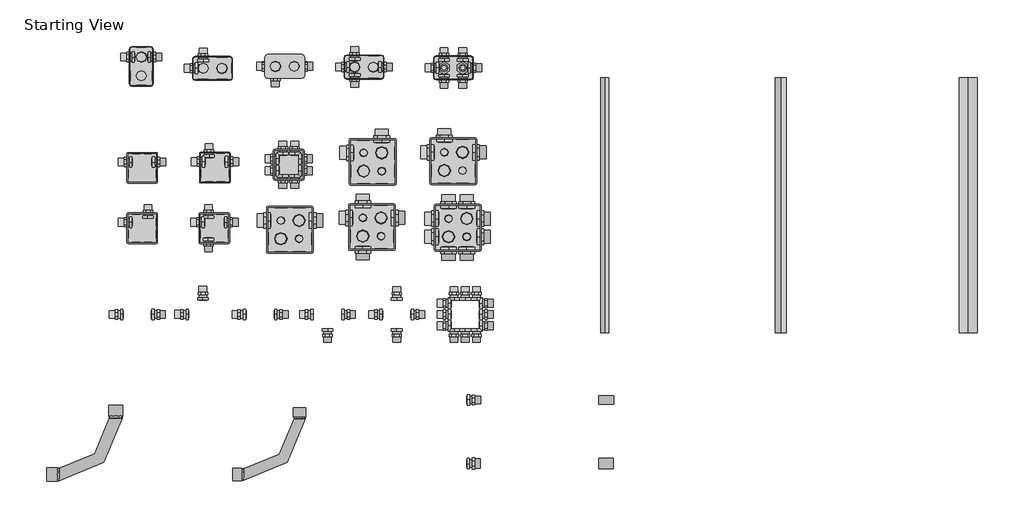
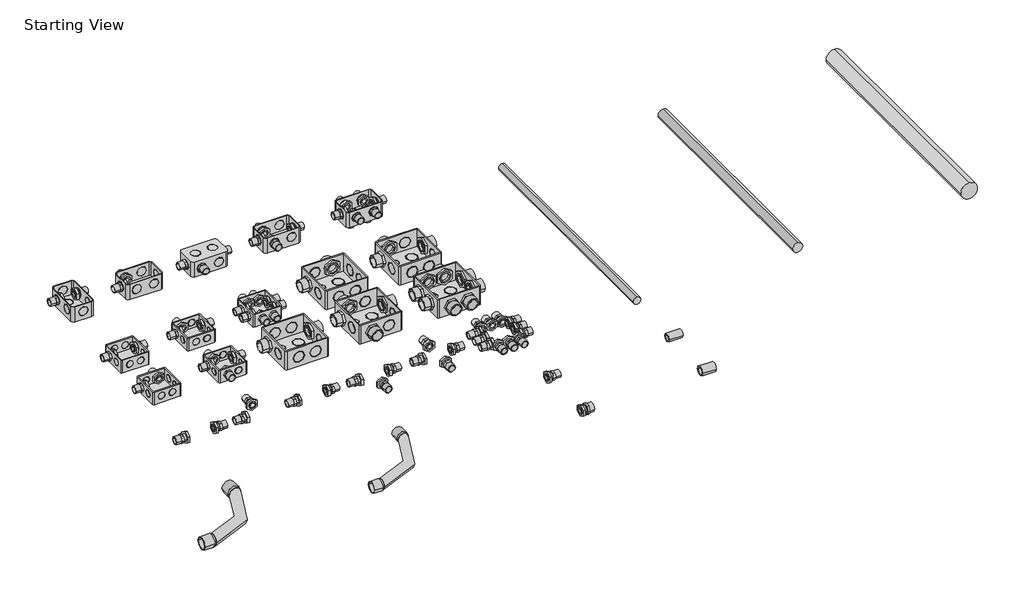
# One storey, incomplete: 103 cable carrier fittings, 3 cable carrier segments.
"""IFC4 building model written with IfcOpenShell, lengths in millimetres."""

from ifc_helpers import new_model, si_unit, point, frame, frame_2d, origin, place, context, project, spatial, circle_curve, trimmed, segment, composite_curve, outline, extrude, transform, mapped, element, save
from components import cable_carrier_fitting_7d2375e2, cable_carrier_fitting_02a53545, conector_ligero_3b958732, conector_313dfdba, conector_c9d302f4, ligero_00a50f13, ligero_7b7c8aed, var_9e1fd1a0, var_f0f9a7e7, var_0c476a5f

model = new_model("IFC4")

# Units and contexts
model_context = context("Model", 3, world=origin())
ifc_project = project(units=[si_unit("LENGTHUNIT", "METRE", prefix="MILLI")], contexts=[model_context])

# Site, building, storey
site = spatial("IfcSite", under=ifc_project)
building = spatial("IfcBuilding", under=site)
storey = spatial("IfcBuildingStorey", under=building, Name="Starting View", Elevation=0.0)

# Cable carrier fittings
placement = place(None, origin())
cable_carrier_fitting_shape = cable_carrier_fitting_7d2375e2(model_context)
element("IfcCableCarrierFitting", 1, ObjectType="AmancoWavin_Unionesdetubería_ConduitCople : Pesado", at=placement, inside=storey, context=model_context, shape_type="MappedRepresentation", body=[
    mapped(cable_carrier_fitting_shape, transform((2787.0313304, 2180.5617548, 0.0), x_axis=(1.0, 0.0, 0.0), y_axis=(0.0, 1.0, 0.0), z_axis=(0.0, 0.0, 1.0))),
])
cable_carrier_fitting_2_shape = cable_carrier_fitting_02a53545(model_context)
element("IfcCableCarrierFitting", 2, ObjectType="AmancoWavin_Unionesdetubería_ConduitCurva : Pesado", at=placement, inside=storey, context=model_context, shape_type="MappedRepresentation", body=[
    mapped(cable_carrier_fitting_2_shape, transform((1480.4376759, 2151.4002553, 0.0), x_axis=(1.0, 0.0, 0.0), y_axis=(0.0, 1.0, 0.0), z_axis=(0.0, 0.0, 1.0))),
])
conector_ligero_shape = conector_ligero_3b958732(model_context)
element("IfcCableCarrierFitting", 3, ObjectType="AmancoWavin_Unionesdetubería_ConduitZNousarconector : Conector Pesado", at=placement, inside=storey, context=model_context, shape_type="MappedRepresentation", body=[
    mapped(conector_ligero_shape, transform((2329.2844095, 2833.6046663, 0.0), x_axis=(-1.0, 0.0, 0.0), y_axis=(0.0, -1.0, 0.0), z_axis=(0.0, 0.0, 1.0))),
])
element("IfcCableCarrierFitting", 4, ObjectType="AmancoWavin_Unionesdetubería_ConduitZNousarconector : Conector Pesado", at=placement, inside=storey, context=model_context, shape_type="MappedRepresentation", body=[
    mapped(conector_ligero_shape, transform((2454.2844095, 2833.6046663, 0.0), x_axis=(1.0, 0.0, 0.0), y_axis=(0.0, 1.0, 0.0), z_axis=(0.0, 0.0, 1.0))),
])
element("IfcCableCarrierFitting", 5, ObjectType="AmancoWavin_Unionesdetubería_ConduitZNousarconector : Conector Pesado", at=placement, inside=storey, context=model_context, shape_type="MappedRepresentation", body=[
    mapped(conector_ligero_shape, transform((2329.2844095, 2785.1046663, 0.0), x_axis=(-1.0, 0.0, 0.0), y_axis=(0.0, -1.0, 0.0), z_axis=(0.0, 0.0, 1.0))),
])
element("IfcCableCarrierFitting", 6, ObjectType="AmancoWavin_Unionesdetubería_ConduitZNousarconector : Conector Pesado", at=placement, inside=storey, context=model_context, shape_type="MappedRepresentation", body=[
    mapped(conector_ligero_shape, transform((2454.2844095, 2785.1046663, 0.0), x_axis=(1.0, 0.0, 0.0), y_axis=(0.0, 1.0, 0.0), z_axis=(0.0, 0.0, 1.0))),
])
element("IfcCableCarrierFitting", 7, ObjectType="AmancoWavin_Unionesdetubería_ConduitZNousarconector : Conector Pesado", at=placement, inside=storey, context=model_context, shape_type="MappedRepresentation", body=[
    mapped(conector_ligero_shape, transform((2367.5344095, 2871.8546663, 0.0), x_axis=(0.0, 1.0, 0.0), y_axis=(-1.0, 0.0, 0.0), z_axis=(0.0, 0.0, 1.0))),
])
element("IfcCableCarrierFitting", 8, ObjectType="AmancoWavin_Unionesdetubería_ConduitZNousarconector : Conector Pesado", at=placement, inside=storey, context=model_context, shape_type="MappedRepresentation", body=[
    mapped(conector_ligero_shape, transform((2367.5344095, 2746.8546663, 0.0), x_axis=(0.0, -1.0, 0.0), y_axis=(1.0, 0.0, 0.0), z_axis=(0.0, 0.0, 1.0))),
])
element("IfcCableCarrierFitting", 9, ObjectType="AmancoWavin_Unionesdetubería_ConduitZNousarconector : Conector Pesado", at=placement, inside=storey, context=model_context, shape_type="MappedRepresentation", body=[
    mapped(conector_ligero_shape, transform((2416.0344095, 2871.8546663, 0.0), x_axis=(0.0, 1.0, 0.0), y_axis=(-1.0, 0.0, 0.0), z_axis=(0.0, 0.0, 1.0))),
])
element("IfcCableCarrierFitting", 10, ObjectType="AmancoWavin_Unionesdetubería_ConduitZNousarconector : Conector Pesado", at=placement, inside=storey, context=model_context, shape_type="MappedRepresentation", body=[
    mapped(conector_ligero_shape, transform((2416.0344095, 2746.8546663, 0.0), x_axis=(0.0, -1.0, 0.0), y_axis=(1.0, 0.0, 0.0), z_axis=(0.0, 0.0, 1.0))),
])
conector_shape = conector_313dfdba(model_context)
element("IfcCableCarrierFitting", 11, ObjectType="AmancoWavin_Unionesdetubería_ConduitZNousarconector : Conector Pesado", at=placement, inside=storey, context=model_context, shape_type="MappedRepresentation", body=[
    mapped(conector_shape, transform((1900.612632, 2992.7512274, 0.0), x_axis=(-1.0, 0.0, 0.0), y_axis=(0.0, -1.0, 0.0), z_axis=(0.0, 0.0, 1.0))),
])
element("IfcCableCarrierFitting", 12, ObjectType="AmancoWavin_Unionesdetubería_ConduitZNousarconector : Conector Pesado", at=placement, inside=storey, context=model_context, shape_type="MappedRepresentation", body=[
    mapped(conector_shape, transform((1982.612632, 2992.7512274, 0.0), x_axis=(1.0, 0.0, 0.0), y_axis=(0.0, 1.0, 0.0), z_axis=(0.0, 0.0, 1.0))),
])
element("IfcCableCarrierFitting", 13, ObjectType="AmancoWavin_Unionesdetubería_ConduitZNousarconector : Conector Pesado", at=placement, inside=storey, context=model_context, shape_type="MappedRepresentation", body=[
    mapped(conector_shape, transform((1900.612632, 2961.2512274, 0.0), x_axis=(-1.0, 0.0, 0.0), y_axis=(0.0, -1.0, 0.0), z_axis=(0.0, 0.0, 1.0))),
])
element("IfcCableCarrierFitting", 14, ObjectType="AmancoWavin_Unionesdetubería_ConduitZNousarconector : Conector Pesado", at=placement, inside=storey, context=model_context, shape_type="MappedRepresentation", body=[
    mapped(conector_shape, transform((1982.612632, 2961.2512274, 0.0), x_axis=(1.0, 0.0, 0.0), y_axis=(0.0, 1.0, 0.0), z_axis=(0.0, 0.0, 1.0))),
])
element("IfcCableCarrierFitting", 15, ObjectType="AmancoWavin_Unionesdetubería_ConduitZNousarconector : Conector Pesado", at=placement, inside=storey, context=model_context, shape_type="MappedRepresentation", body=[
    mapped(conector_shape, transform((1925.862632, 3018.0012274, 0.0), x_axis=(0.0, 1.0, 0.0), y_axis=(-1.0, 0.0, 0.0), z_axis=(0.0, 0.0, 1.0))),
])
element("IfcCableCarrierFitting", 16, ObjectType="AmancoWavin_Unionesdetubería_ConduitZNousarconector : Conector Pesado", at=placement, inside=storey, context=model_context, shape_type="MappedRepresentation", body=[
    mapped(conector_shape, transform((1925.862632, 2936.0012274, 0.0), x_axis=(0.0, -1.0, 0.0), y_axis=(1.0, 0.0, 0.0), z_axis=(0.0, 0.0, 1.0))),
])
element("IfcCableCarrierFitting", 17, ObjectType="AmancoWavin_Unionesdetubería_ConduitZNousarconector : Conector Pesado", at=placement, inside=storey, context=model_context, shape_type="MappedRepresentation", body=[
    mapped(conector_shape, transform((1957.362632, 3018.0012274, 0.0), x_axis=(0.0, 1.0, 0.0), y_axis=(-1.0, 0.0, 0.0), z_axis=(0.0, 0.0, 1.0))),
])
element("IfcCableCarrierFitting", 18, ObjectType="AmancoWavin_Unionesdetubería_ConduitZNousarconector : Conector Pesado", at=placement, inside=storey, context=model_context, shape_type="MappedRepresentation", body=[
    mapped(conector_shape, transform((1957.362632, 2936.0012274, 0.0), x_axis=(0.0, -1.0, 0.0), y_axis=(1.0, 0.0, 0.0), z_axis=(0.0, 0.0, 1.0))),
])
element("IfcCableCarrierFitting", 19, ObjectType="AmancoWavin_Unionesdetubería_ConduitConector : Conector", at=placement, inside=storey, context=model_context, shape_type="MappedRepresentation", body=[
    mapped(conector_shape, transform((2431.3394166, 2350.0215127, 0.0), x_axis=(1.0, 0.0, 0.0), y_axis=(0.0, 1.0, 0.0), z_axis=(0.0, 0.0, 1.0))),
])
conector_2_shape = conector_c9d302f4(model_context)
element("IfcCableCarrierFitting", 20, ObjectType="AmancoWavin_Unionesdetubería_ConduitConector : Conector", at=placement, inside=storey, context=model_context, shape_type="MappedRepresentation", body=[
    mapped(conector_2_shape, transform((2431.1831654, 2180.5617548, 0.0), x_axis=(1.0, 0.0, 0.0), y_axis=(0.0, 1.0, 0.0), z_axis=(0.0, 0.0, 1.0))),
])
element("IfcCableCarrierFitting", 21, ObjectType="AmancoWavin_Unionesdetubería_ConduitZNousarconector : Conector Ligero", at=placement, inside=storey, context=model_context, shape_type="MappedRepresentation", body=[
    mapped(conector_shape, transform((1509.5870102, 2984.3288876, 0.0), x_axis=(-1.0, 0.0, 0.0), y_axis=(0.0, -1.0, 0.0), z_axis=(0.0, 0.0, 1.0))),
])
element("IfcCableCarrierFitting", 22, ObjectType="AmancoWavin_Unionesdetubería_ConduitZNousarconector : Conector Ligero", at=placement, inside=storey, context=model_context, shape_type="MappedRepresentation", body=[
    mapped(conector_shape, transform((1591.5870102, 2984.3288876, 0.0), x_axis=(1.0, 0.0, 0.0), y_axis=(0.0, 1.0, 0.0), z_axis=(0.0, 0.0, 1.0))),
])
element("IfcCableCarrierFitting", 23, ObjectType="AmancoWavin_Unionesdetubería_ConduitZNousarconector : Conector Ligero", at=placement, inside=storey, context=model_context, shape_type="MappedRepresentation", body=[
    mapped(conector_shape, transform((1516.3799655, 3264.1436936, 0.0), x_axis=(-1.0, 0.0, 0.0), y_axis=(0.0, -1.0, 0.0), z_axis=(0.0, 0.0, 1.0))),
])
element("IfcCableCarrierFitting", 24, ObjectType="AmancoWavin_Unionesdetubería_ConduitZNousarconector : Conector Ligero", at=placement, inside=storey, context=model_context, shape_type="MappedRepresentation", body=[
    mapped(conector_shape, transform((1580.3799655, 3264.1436936, 0.0), x_axis=(1.0, 0.0, 0.0), y_axis=(0.0, 1.0, 0.0), z_axis=(0.0, 0.0, 1.0))),
])
element("IfcCableCarrierFitting", 25, ObjectType="AmancoWavin_Unionesdetubería_ConduitZNousarconector : Conector Ligero", at=placement, inside=storey, context=model_context, shape_type="MappedRepresentation", body=[
    mapped(conector_shape, transform((1877.8503408, 3239.1436936, 0.0), x_axis=(-1.0, 0.0, 0.0), y_axis=(0.0, 1.0, 0.0), z_axis=(0.0, 0.0, -1.0))),
])
element("IfcCableCarrierFitting", 26, ObjectType="AmancoWavin_Unionesdetubería_ConduitZNousarconector : Conector Ligero", at=placement, inside=storey, context=model_context, shape_type="MappedRepresentation", body=[
    mapped(conector_shape, transform((1983.8503408, 3239.1436936, 0.0), x_axis=(1.0, 0.0, 0.0), y_axis=(0.0, -1.0, 0.0), z_axis=(0.0, 0.0, -1.0))),
])
element("IfcCableCarrierFitting", 27, ObjectType="AmancoWavin_Unionesdetubería_ConduitZNousarconector : Conector Ligero", at=placement, inside=storey, context=model_context, shape_type="MappedRepresentation", body=[
    mapped(conector_shape, transform((1905.8503408, 3207.1436936, 0.0), x_axis=(0.0, -1.0, 0.0), y_axis=(-1.0, 0.0, 0.0), z_axis=(0.0, 0.0, -1.0))),
])
element("IfcCableCarrierFitting", 28, ObjectType="AmancoWavin_Unionesdetubería_ConduitZNousarconector : Conector Ligero", at=placement, inside=storey, context=model_context, shape_type="MappedRepresentation", body=[
    mapped(conector_shape, transform((2089.1323116, 3237.5169448, 0.0), x_axis=(-1.0, 0.0, 0.0), y_axis=(0.0, -1.0, 0.0), z_axis=(0.0, 0.0, 1.0))),
])
element("IfcCableCarrierFitting", 29, ObjectType="AmancoWavin_Unionesdetubería_ConduitZNousarconector : Conector Ligero", at=placement, inside=storey, context=model_context, shape_type="MappedRepresentation", body=[
    mapped(conector_shape, transform((2195.1323116, 3237.5169448, 0.0), x_axis=(1.0, 0.0, 0.0), y_axis=(0.0, 1.0, 0.0), z_axis=(0.0, 0.0, 1.0))),
])
element("IfcCableCarrierFitting", 30, ObjectType="AmancoWavin_Unionesdetubería_ConduitZNousarconector : Conector Ligero", at=placement, inside=storey, context=model_context, shape_type="MappedRepresentation", body=[
    mapped(conector_shape, transform((2117.1323116, 3269.5169448, 0.0), x_axis=(0.0, 1.0, 0.0), y_axis=(-1.0, 0.0, 0.0), z_axis=(0.0, 0.0, 1.0))),
])
element("IfcCableCarrierFitting", 31, ObjectType="AmancoWavin_Unionesdetubería_ConduitZNousarconector : Conector Ligero", at=placement, inside=storey, context=model_context, shape_type="MappedRepresentation", body=[
    mapped(conector_shape, transform((2117.1323116, 3205.5169448, 0.0), x_axis=(0.0, -1.0, 0.0), y_axis=(1.0, 0.0, 0.0), z_axis=(0.0, 0.0, 1.0))),
])
element("IfcCableCarrierFitting", 32, ObjectType="AmancoWavin_Unionesdetubería_ConduitZNousarconector : Conector Ligero", at=placement, inside=storey, context=model_context, shape_type="MappedRepresentation", body=[
    mapped(conector_shape, transform((2097.4395789, 2577.9742706, 0.0), x_axis=(1.0, 0.0, 0.0), y_axis=(0.0, 1.0, 0.0), z_axis=(0.0, 0.0, 1.0))),
])
element("IfcCableCarrierFitting", 33, ObjectType="AmancoWavin_Unionesdetubería_ConduitZNousarconector : Conector Ligero", at=placement, inside=storey, context=model_context, shape_type="MappedRepresentation", body=[
    mapped(conector_shape, transform((1992.4395789, 2577.9742706, 0.0), x_axis=(-1.0, 0.0, 0.0), y_axis=(0.0, -1.0, 0.0), z_axis=(0.0, 0.0, 1.0))),
])
element("IfcCableCarrierFitting", 34, ObjectType="AmancoWavin_Unionesdetubería_ConduitZNousarconector : Conector Ligero", at=placement, inside=storey, context=model_context, shape_type="MappedRepresentation", body=[
    mapped(conector_shape, transform((2044.9395789, 2525.4742706, 0.0), x_axis=(0.0, -1.0, 0.0), y_axis=(1.0, 0.0, 0.0), z_axis=(0.0, 0.0, 1.0))),
])
element("IfcCableCarrierFitting", 35, ObjectType="AmancoWavin_Unionesdetubería_ConduitZNousarconector : Conector Ligero", at=placement, inside=storey, context=model_context, shape_type="MappedRepresentation", body=[
    mapped(conector_shape, transform((2359.5776405, 2547.9742706, 0.0), x_axis=(-1.0, 0.0, 0.0), y_axis=(0.0, -1.0, 0.0), z_axis=(0.0, 0.0, 1.0))),
])
element("IfcCableCarrierFitting", 36, ObjectType="AmancoWavin_Unionesdetubería_ConduitZNousarconector : Conector Ligero", at=placement, inside=storey, context=model_context, shape_type="MappedRepresentation", body=[
    mapped(conector_shape, transform((2464.5776405, 2577.9742706, 0.0), x_axis=(1.0, 0.0, 0.0), y_axis=(0.0, 1.0, 0.0), z_axis=(0.0, 0.0, 1.0))),
])
element("IfcCableCarrierFitting", 37, ObjectType="AmancoWavin_Unionesdetubería_ConduitZNousarconector : Conector Ligero", at=placement, inside=storey, context=model_context, shape_type="MappedRepresentation", body=[
    mapped(conector_shape, transform((2359.5776405, 2577.9742706, 0.0), x_axis=(-1.0, 0.0, 0.0), y_axis=(0.0, -1.0, 0.0), z_axis=(0.0, 0.0, 1.0))),
])
element("IfcCableCarrierFitting", 38, ObjectType="AmancoWavin_Unionesdetubería_ConduitZNousarconector : Conector Ligero", at=placement, inside=storey, context=model_context, shape_type="MappedRepresentation", body=[
    mapped(conector_shape, transform((2464.5776405, 2607.9742706, 0.0), x_axis=(1.0, 0.0, 0.0), y_axis=(0.0, 1.0, 0.0), z_axis=(0.0, 0.0, 1.0))),
])
element("IfcCableCarrierFitting", 39, ObjectType="AmancoWavin_Unionesdetubería_ConduitZNousarconector : Conector Ligero", at=placement, inside=storey, context=model_context, shape_type="MappedRepresentation", body=[
    mapped(conector_shape, transform((2359.5776405, 2607.9742706, 0.0), x_axis=(-1.0, 0.0, 0.0), y_axis=(0.0, -1.0, 0.0), z_axis=(0.0, 0.0, 1.0))),
])
element("IfcCableCarrierFitting", 40, ObjectType="AmancoWavin_Unionesdetubería_ConduitZNousarconector : Conector Ligero", at=placement, inside=storey, context=model_context, shape_type="MappedRepresentation", body=[
    mapped(conector_shape, transform((2442.0776405, 2525.4742706, 0.0), x_axis=(0.0, -1.0, 0.0), y_axis=(1.0, 0.0, 0.0), z_axis=(0.0, 0.0, 1.0))),
])
element("IfcCableCarrierFitting", 41, ObjectType="AmancoWavin_Unionesdetubería_ConduitZNousarconector : Conector Ligero", at=placement, inside=storey, context=model_context, shape_type="MappedRepresentation", body=[
    mapped(conector_shape, transform((2442.0776405, 2630.4742706, 0.0), x_axis=(0.0, 1.0, 0.0), y_axis=(-1.0, 0.0, 0.0), z_axis=(0.0, 0.0, 1.0))),
])
element("IfcCableCarrierFitting", 42, ObjectType="AmancoWavin_Unionesdetubería_ConduitZNousarconector : Conector Ligero", at=placement, inside=storey, context=model_context, shape_type="MappedRepresentation", body=[
    mapped(conector_shape, transform((2412.0776405, 2525.4742706, 0.0), x_axis=(0.0, -1.0, 0.0), y_axis=(1.0, 0.0, 0.0), z_axis=(0.0, 0.0, 1.0))),
])
element("IfcCableCarrierFitting", 43, ObjectType="AmancoWavin_Unionesdetubería_ConduitZNousarconector : Conector Ligero", at=placement, inside=storey, context=model_context, shape_type="MappedRepresentation", body=[
    mapped(conector_shape, transform((2412.0776405, 2630.4742706, 0.0), x_axis=(0.0, 1.0, 0.0), y_axis=(-1.0, 0.0, 0.0), z_axis=(0.0, 0.0, 1.0))),
])
element("IfcCableCarrierFitting", 44, ObjectType="AmancoWavin_Unionesdetubería_ConduitZNousarconector : Conector Ligero", at=placement, inside=storey, context=model_context, shape_type="MappedRepresentation", body=[
    mapped(conector_shape, transform((2382.0776405, 2525.4742706, 0.0), x_axis=(0.0, -1.0, 0.0), y_axis=(1.0, 0.0, 0.0), z_axis=(0.0, 0.0, 1.0))),
])
element("IfcCableCarrierFitting", 45, ObjectType="AmancoWavin_Unionesdetubería_ConduitZNousarconector : Conector Ligero", at=placement, inside=storey, context=model_context, shape_type="MappedRepresentation", body=[
    mapped(conector_shape, transform((2382.0776405, 2630.4742706, 0.0), x_axis=(0.0, 1.0, 0.0), y_axis=(-1.0, 0.0, 0.0), z_axis=(0.0, 0.0, 1.0))),
])
element("IfcCableCarrierFitting", 46, ObjectType="AmancoWavin_Unionesdetubería_ConduitZNousarconector : Conector Ligero", at=placement, inside=storey, context=model_context, shape_type="MappedRepresentation", body=[
    mapped(conector_shape, transform((2464.5776405, 2547.9742706, 0.0), x_axis=(1.0, 0.0, 0.0), y_axis=(0.0, 1.0, 0.0), z_axis=(0.0, 0.0, 1.0))),
])
element("IfcCableCarrierFitting", 47, ObjectType="AmancoWavin_Unionesdetubería_ConduitZNousarconector : Conector Ligero", at=placement, inside=storey, context=model_context, shape_type="MappedRepresentation", body=[
    mapped(conector_shape, transform((1590.6849282, 2577.9742706, 0.0), x_axis=(1.0, 0.0, 0.0), y_axis=(0.0, 1.0, 0.0), z_axis=(0.0, 0.0, 1.0))),
])
element("IfcCableCarrierFitting", 48, ObjectType="AmancoWavin_Unionesdetubería_ConduitZNousarconector : Conector Ligero", at=placement, inside=storey, context=model_context, shape_type="MappedRepresentation", body=[
    mapped(conector_shape, transform((1485.6849282, 2577.9742706, 0.0), x_axis=(-1.0, 0.0, 0.0), y_axis=(0.0, -1.0, 0.0), z_axis=(0.0, 0.0, 1.0))),
])
element("IfcCableCarrierFitting", 49, ObjectType="AmancoWavin_Unionesdetubería_ConduitZNousarconector : Conector Ligero", at=placement, inside=storey, context=model_context, shape_type="MappedRepresentation", body=[
    mapped(conector_shape, transform((1703.8173187, 2985.4513457, 0.0), x_axis=(-1.0, 0.0, 0.0), y_axis=(0.0, -1.0, 0.0), z_axis=(0.0, 0.0, 1.0))),
])
element("IfcCableCarrierFitting", 50, ObjectType="AmancoWavin_Unionesdetubería_ConduitZNousarconector : Conector Ligero", at=placement, inside=storey, context=model_context, shape_type="MappedRepresentation", body=[
    mapped(conector_shape, transform((1785.8173187, 2985.4513457, 0.0), x_axis=(1.0, 0.0, 0.0), y_axis=(0.0, 1.0, 0.0), z_axis=(0.0, 0.0, 1.0))),
])
element("IfcCableCarrierFitting", 51, ObjectType="AmancoWavin_Unionesdetubería_ConduitZNousarconector : Conector Ligero", at=placement, inside=storey, context=model_context, shape_type="MappedRepresentation", body=[
    mapped(conector_shape, transform((1729.0673187, 3010.7013457, 0.0), x_axis=(0.0, 1.0, 0.0), y_axis=(-1.0, 0.0, 0.0), z_axis=(0.0, 0.0, 1.0))),
])
element("IfcCableCarrierFitting", 52, ObjectType="AmancoWavin_Unionesdetubería_ConduitZNousarconector : Conector Ligero", at=placement, inside=storey, context=model_context, shape_type="MappedRepresentation", body=[
    mapped(conector_shape, transform((1702.329273, 2823.7668451, 0.0), x_axis=(-1.0, 0.0, 0.0), y_axis=(0.0, -1.0, 0.0), z_axis=(0.0, 0.0, 1.0))),
])
element("IfcCableCarrierFitting", 53, ObjectType="AmancoWavin_Unionesdetubería_ConduitZNousarconector : Conector Ligero", at=placement, inside=storey, context=model_context, shape_type="MappedRepresentation", body=[
    mapped(conector_shape, transform((1784.329273, 2823.7668451, 0.0), x_axis=(1.0, 0.0, 0.0), y_axis=(0.0, 1.0, 0.0), z_axis=(0.0, 0.0, 1.0))),
])
element("IfcCableCarrierFitting", 54, ObjectType="AmancoWavin_Unionesdetubería_ConduitZNousarconector : Conector Ligero", at=placement, inside=storey, context=model_context, shape_type="MappedRepresentation", body=[
    mapped(conector_shape, transform((1727.579273, 2849.0168451, 0.0), x_axis=(0.0, 1.0, 0.0), y_axis=(-1.0, 0.0, 0.0), z_axis=(0.0, 0.0, 1.0))),
])
element("IfcCableCarrierFitting", 55, ObjectType="AmancoWavin_Unionesdetubería_ConduitZNousarconector : Conector Ligero", at=placement, inside=storey, context=model_context, shape_type="MappedRepresentation", body=[
    mapped(conector_shape, transform((1727.579273, 2767.0168451, 0.0), x_axis=(0.0, -1.0, 0.0), y_axis=(1.0, 0.0, 0.0), z_axis=(0.0, 0.0, 1.0))),
])
element("IfcCableCarrierFitting", 56, ObjectType="AmancoWavin_Unionesdetubería_ConduitZNousarconector : Conector Ligero", at=placement, inside=storey, context=model_context, shape_type="MappedRepresentation", body=[
    mapped(conector_shape, transform((2433.4181048, 3235.5021274, 0.0), x_axis=(1.0, 0.0, 0.0), y_axis=(0.0, 1.0, 0.0), z_axis=(0.0, 0.0, 1.0))),
])
element("IfcCableCarrierFitting", 57, ObjectType="AmancoWavin_Unionesdetubería_ConduitZNousarconector : Conector Ligero", at=placement, inside=storey, context=model_context, shape_type="MappedRepresentation", body=[
    mapped(conector_shape, transform((2327.4181048, 3235.5021274, 0.0), x_axis=(-1.0, 0.0, 0.0), y_axis=(0.0, -1.0, 0.0), z_axis=(0.0, 0.0, 1.0))),
])
element("IfcCableCarrierFitting", 58, ObjectType="AmancoWavin_Unionesdetubería_ConduitZNousarconector : Conector Ligero", at=placement, inside=storey, context=model_context, shape_type="MappedRepresentation", body=[
    mapped(conector_shape, transform((2355.4181048, 3267.5021274, 0.0), x_axis=(0.0, 1.0, 0.0), y_axis=(-1.0, 0.0, 0.0), z_axis=(0.0, 0.0, 1.0))),
])
element("IfcCableCarrierFitting", 59, ObjectType="AmancoWavin_Unionesdetubería_ConduitZNousarconector : Conector Ligero", at=placement, inside=storey, context=model_context, shape_type="MappedRepresentation", body=[
    mapped(conector_shape, transform((2405.4181048, 3267.5021274, 0.0), x_axis=(0.0, 1.0, 0.0), y_axis=(-1.0, 0.0, 0.0), z_axis=(0.0, 0.0, 1.0))),
])
element("IfcCableCarrierFitting", 60, ObjectType="AmancoWavin_Unionesdetubería_ConduitZNousarconector : Conector Ligero", at=placement, inside=storey, context=model_context, shape_type="MappedRepresentation", body=[
    mapped(conector_shape, transform((2355.4181048, 3203.5021274, 0.0), x_axis=(0.0, -1.0, 0.0), y_axis=(1.0, 0.0, 0.0), z_axis=(0.0, 0.0, 1.0))),
])
element("IfcCableCarrierFitting", 61, ObjectType="AmancoWavin_Unionesdetubería_ConduitZNousarconector : Conector Ligero", at=placement, inside=storey, context=model_context, shape_type="MappedRepresentation", body=[
    mapped(conector_shape, transform((2405.4181048, 3203.5021274, 0.0), x_axis=(0.0, -1.0, 0.0), y_axis=(1.0, 0.0, 0.0), z_axis=(0.0, 0.0, 1.0))),
])
element("IfcCableCarrierFitting", 62, ObjectType="AmancoWavin_Unionesdetubería_ConduitZNousarconector : Conector Ligero", at=placement, inside=storey, context=model_context, shape_type="MappedRepresentation", body=[
    mapped(conector_shape, transform((2355.4181048, 3235.5021274, -25.75), x_axis=(0.0, 0.0, -1.0), y_axis=(1.0, 0.0, 0.0), z_axis=(0.0, -1.0, 0.0))),
])
element("IfcCableCarrierFitting", 63, ObjectType="AmancoWavin_Unionesdetubería_ConduitZNousarconector : Conector Ligero", at=placement, inside=storey, context=model_context, shape_type="MappedRepresentation", body=[
    mapped(conector_shape, transform((2405.4181048, 3235.5021274, -25.75), x_axis=(0.0, 0.0, -1.0), y_axis=(1.0, 0.0, 0.0), z_axis=(0.0, -1.0, 0.0))),
])
element("IfcCableCarrierFitting", 64, ObjectType="AmancoWavin_Unionesdetubería_ConduitZNousarconector : Conector Ligero", at=placement, inside=storey, context=model_context, shape_type="MappedRepresentation", body=[
    mapped(conector_shape, transform((2177.008182, 2577.9742706, 0.0), x_axis=(-1.0, 0.0, 0.0), y_axis=(0.0, -1.0, 0.0), z_axis=(0.0, 0.0, 1.0))),
])
element("IfcCableCarrierFitting", 65, ObjectType="AmancoWavin_Unionesdetubería_ConduitZNousarconector : Conector Ligero", at=placement, inside=storey, context=model_context, shape_type="MappedRepresentation", body=[
    mapped(conector_shape, transform((2282.008182, 2577.9742706, 0.0), x_axis=(1.0, 0.0, 0.0), y_axis=(0.0, 1.0, 0.0), z_axis=(0.0, 0.0, 1.0))),
])
element("IfcCableCarrierFitting", 66, ObjectType="AmancoWavin_Unionesdetubería_ConduitZNousarconector : Conector Ligero", at=placement, inside=storey, context=model_context, shape_type="MappedRepresentation", body=[
    mapped(conector_shape, transform((2229.508182, 2630.4742706, 0.0), x_axis=(0.0, 1.0, 0.0), y_axis=(-1.0, 0.0, 0.0), z_axis=(0.0, 0.0, 1.0))),
])
element("IfcCableCarrierFitting", 67, ObjectType="AmancoWavin_Unionesdetubería_ConduitZNousarconector : Conector Ligero", at=placement, inside=storey, context=model_context, shape_type="MappedRepresentation", body=[
    mapped(conector_shape, transform((2229.508182, 2525.4742706, 0.0), x_axis=(0.0, -1.0, 0.0), y_axis=(1.0, 0.0, 0.0), z_axis=(0.0, 0.0, 1.0))),
])
element("IfcCableCarrierFitting", 68, ObjectType="AmancoWavin_Unionesdetubería_ConduitZNousarconector : Conector Ligero", at=placement, inside=storey, context=model_context, shape_type="MappedRepresentation", body=[
    mapped(conector_shape, transform((1812.7199068, 2577.9742706, 0.0), x_axis=(-1.0, 0.0, 0.0), y_axis=(0.0, -1.0, 0.0), z_axis=(0.0, 0.0, 1.0))),
])
element("IfcCableCarrierFitting", 69, ObjectType="AmancoWavin_Unionesdetubería_ConduitZNousarconector : Conector Ligero", at=placement, inside=storey, context=model_context, shape_type="MappedRepresentation", body=[
    mapped(conector_shape, transform((1917.7199068, 2577.9742706, 0.0), x_axis=(1.0, 0.0, 0.0), y_axis=(0.0, 1.0, 0.0), z_axis=(0.0, 0.0, 1.0))),
])
element("IfcCableCarrierFitting", 70, ObjectType="AmancoWavin_Unionesdetubería_ConduitZNousarconector : Conector Ligero", at=placement, inside=storey, context=model_context, shape_type="MappedRepresentation", body=[
    mapped(conector_shape, transform((1685.3387563, 3234.1436936, 0.0), x_axis=(-1.0, 0.0, 0.0), y_axis=(0.0, -1.0, 0.0), z_axis=(0.0, 0.0, 1.0))),
])
element("IfcCableCarrierFitting", 71, ObjectType="AmancoWavin_Unionesdetubería_ConduitZNousarconector : Conector Ligero", at=placement, inside=storey, context=model_context, shape_type="MappedRepresentation", body=[
    mapped(conector_shape, transform((1713.3387563, 3266.1436936, 0.0), x_axis=(0.0, 1.0, 0.0), y_axis=(-1.0, 0.0, 0.0), z_axis=(0.0, 0.0, 1.0))),
])
element("IfcCableCarrierFitting", 72, ObjectType="AmancoWavin_Unionesdetubería_ConduitZNousarconector : Conector Ligero", at=placement, inside=storey, context=model_context, shape_type="MappedRepresentation", body=[
    mapped(conector_shape, transform((1509.5870102, 2823.7668451, 0.0), x_axis=(-1.0, 0.0, 0.0), y_axis=(0.0, -1.0, 0.0), z_axis=(0.0, 0.0, 1.0))),
])
element("IfcCableCarrierFitting", 73, ObjectType="AmancoWavin_Unionesdetubería_ConduitZNousarconector : Conector Ligero", at=placement, inside=storey, context=model_context, shape_type="MappedRepresentation", body=[
    mapped(conector_shape, transform((1566.3370102, 2849.0168451, 0.0), x_axis=(0.0, 1.0, 0.0), y_axis=(-1.0, 0.0, 0.0), z_axis=(0.0, 0.0, 1.0))),
])
element("IfcCableCarrierFitting", 74, ObjectType="AmancoWavin_Unionesdetubería_ConduitZNousarconector : Conector Ligero", at=placement, inside=storey, context=model_context, shape_type="MappedRepresentation", body=[
    mapped(conector_shape, transform((1660.3070737, 2578.1048069, 0.0), x_axis=(-1.0, 0.0, 0.0), y_axis=(0.0, -1.0, 0.0), z_axis=(0.0, 0.0, 1.0))),
])
element("IfcCableCarrierFitting", 75, ObjectType="AmancoWavin_Unionesdetubería_ConduitZNousarconector : Conector Ligero", at=placement, inside=storey, context=model_context, shape_type="MappedRepresentation", body=[
    mapped(conector_shape, transform((1712.8070737, 2630.6048069, 0.0), x_axis=(0.0, 1.0, 0.0), y_axis=(-1.0, 0.0, 0.0), z_axis=(0.0, 0.0, 1.0))),
])
element("IfcCableCarrierFitting", 76, ObjectType="AmancoWavin_Unionesdetubería_ConduitZNousarconector : Conector Ligero", at=placement, inside=storey, context=model_context, shape_type="MappedRepresentation", body=[
    mapped(conector_ligero_shape, transform((1882.2831484, 2828.4397434, 0.0), x_axis=(-1.0, 0.0, 0.0), y_axis=(0.0, -1.0, 0.0), z_axis=(0.0, 0.0, 1.0))),
])
element("IfcCableCarrierFitting", 77, ObjectType="AmancoWavin_Unionesdetubería_ConduitZNousarconector : Conector Ligero", at=placement, inside=storey, context=model_context, shape_type="MappedRepresentation", body=[
    mapped(conector_ligero_shape, transform((2007.2831484, 2828.4397434, 0.0), x_axis=(1.0, 0.0, 0.0), y_axis=(0.0, 1.0, 0.0), z_axis=(0.0, 0.0, 1.0))),
])
element("IfcCableCarrierFitting", 78, ObjectType="AmancoWavin_Unionesdetubería_ConduitZNousarconector : Conector Ligero", at=placement, inside=storey, context=model_context, shape_type="MappedRepresentation", body=[
    mapped(conector_ligero_shape, transform((2317.9669491, 3010.1379199, 0.0), x_axis=(-1.0, 0.0, 0.0), y_axis=(0.0, -1.0, 0.0), z_axis=(0.0, 0.0, 1.0))),
])
element("IfcCableCarrierFitting", 79, ObjectType="AmancoWavin_Unionesdetubería_ConduitZNousarconector : Conector Ligero", at=placement, inside=storey, context=model_context, shape_type="MappedRepresentation", body=[
    mapped(conector_ligero_shape, transform((2442.9669491, 3010.1379199, 0.0), x_axis=(1.0, 0.0, 0.0), y_axis=(0.0, 1.0, 0.0), z_axis=(0.0, 0.0, 1.0))),
])
element("IfcCableCarrierFitting", 80, ObjectType="AmancoWavin_Unionesdetubería_ConduitZNousarconector : Conector Ligero", at=placement, inside=storey, context=model_context, shape_type="MappedRepresentation", body=[
    mapped(conector_ligero_shape, transform((2356.2169491, 3048.3879199, 0.0), x_axis=(0.0, 1.0, 0.0), y_axis=(-1.0, 0.0, 0.0), z_axis=(0.0, 0.0, 1.0))),
])
element("IfcCableCarrierFitting", 81, ObjectType="AmancoWavin_Unionesdetubería_ConduitZNousarconector : Conector Ligero", at=placement, inside=storey, context=model_context, shape_type="MappedRepresentation", body=[
    mapped(conector_ligero_shape, transform((2100.84463, 2835.3469508, 0.0), x_axis=(-1.0, 0.0, 0.0), y_axis=(0.0, -1.0, 0.0), z_axis=(0.0, 0.0, 1.0))),
])
element("IfcCableCarrierFitting", 82, ObjectType="AmancoWavin_Unionesdetubería_ConduitZNousarconector : Conector Ligero", at=placement, inside=storey, context=model_context, shape_type="MappedRepresentation", body=[
    mapped(conector_ligero_shape, transform((2139.09463, 2873.5969508, 0.0), x_axis=(0.0, 1.0, 0.0), y_axis=(-1.0, 0.0, 0.0), z_axis=(0.0, 0.0, 1.0))),
])
element("IfcCableCarrierFitting", 83, ObjectType="AmancoWavin_Unionesdetubería_ConduitZNousarconector : Conector Ligero", at=placement, inside=storey, context=model_context, shape_type="MappedRepresentation", body=[
    mapped(conector_ligero_shape, transform((2225.84463, 2835.3469508, 0.0), x_axis=(1.0, 0.0, 0.0), y_axis=(0.0, 1.0, 0.0), z_axis=(0.0, 0.0, 1.0))),
])
element("IfcCableCarrierFitting", 84, ObjectType="AmancoWavin_Unionesdetubería_ConduitZNousarconector : Conector Ligero", at=placement, inside=storey, context=model_context, shape_type="MappedRepresentation", body=[
    mapped(conector_ligero_shape, transform((2139.09463, 2748.5969508, 0.0), x_axis=(0.0, -1.0, 0.0), y_axis=(1.0, 0.0, 0.0), z_axis=(0.0, 0.0, 1.0))),
])
element("IfcCableCarrierFitting", 85, ObjectType="AmancoWavin_Unionesdetubería_ConduitZNousarconector : Conector Ligero", at=placement, inside=storey, context=model_context, shape_type="MappedRepresentation", body=[
    mapped(conector_ligero_shape, transform((2102.7540985, 3008.7423368, 0.0), x_axis=(-1.0, 0.0, 0.0), y_axis=(0.0, -1.0, 0.0), z_axis=(0.0, 0.0, 1.0))),
])
element("IfcCableCarrierFitting", 86, ObjectType="AmancoWavin_Unionesdetubería_ConduitZNousarconector : Conector Ligero", at=placement, inside=storey, context=model_context, shape_type="MappedRepresentation", body=[
    mapped(conector_ligero_shape, transform((2189.5040985, 3046.9923368, 0.0), x_axis=(0.0, 1.0, 0.0), y_axis=(-1.0, 0.0, 0.0), z_axis=(0.0, 0.0, 1.0))),
])
ligero_shape = ligero_00a50f13(model_context)
element("IfcCableCarrierFitting", 87, ObjectType="AmancoWavin_Unionesdetubería_ConduitCople : Ligero", at=placement, inside=storey, context=model_context, shape_type="MappedRepresentation", body=[
    mapped(ligero_shape, transform((2788.2813304, 2350.0215127, 0.0), x_axis=(1.0, 0.0, 0.0), y_axis=(0.0, 1.0, 0.0), z_axis=(0.0, 0.0, 1.0))),
])
ligero_2_shape = ligero_7b7c8aed(model_context)
element("IfcCableCarrierFitting", 88, ObjectType="AmancoWavin_Unionesdetubería_ConduitCurva : Ligero", at=placement, inside=storey, context=model_context, shape_type="MappedRepresentation", body=[
    mapped(ligero_2_shape, transform((1970.4376759, 2151.4002553, 0.0), x_axis=(1.0, 0.0, 0.0), y_axis=(0.0, 1.0, 0.0), z_axis=(0.0, 0.0, 1.0))),
])
var_shape = var_9e1fd1a0(model_context)
element("IfcCableCarrierFitting", 89, ObjectType="AmancoWavin_Unionesdetubería_ConduitZNousarcajachalupa : Var", at=placement, inside=storey, context=model_context, shape_type="MappedRepresentation", body=[
    mapped(var_shape, transform((1930.8503408, 3239.1436936, 0.0), x_axis=(1.0, 0.0, 0.0), y_axis=(0.0, -1.0, 0.0), z_axis=(0.0, 0.0, -1.0))),
])
element("IfcCableCarrierFitting", 90, ObjectType="AmancoWavin_Unionesdetubería_ConduitZNousarcajachalupa : Var", at=placement, inside=storey, context=model_context, shape_type="MappedRepresentation", body=[
    mapped(var_shape, transform((2142.1323116, 3237.5169448, 0.0), x_axis=(1.0, 0.0, 0.0), y_axis=(0.0, 1.0, 0.0), z_axis=(0.0, 0.0, 1.0))),
])
element("IfcCableCarrierFitting", 91, ObjectType="AmancoWavin_Unionesdetubería_ConduitZNousarcajachalupa : Var", at=placement, inside=storey, context=model_context, shape_type="MappedRepresentation", body=[
    mapped(var_shape, transform((1548.3799655, 3239.1436936, 0.0), x_axis=(0.0, 1.0, 0.0), y_axis=(-1.0, 0.0, 0.0), z_axis=(0.0, 0.0, 1.0))),
])
element("IfcCableCarrierFitting", 92, ObjectType="AmancoWavin_Unionesdetubería_ConduitZNousarcajachalupa : Var", at=placement, inside=storey, context=model_context, shape_type="MappedRepresentation", body=[
    mapped(var_shape, transform((2380.4181048, 3235.5021274, -2.5), x_axis=(1.0, 0.0, 0.0), y_axis=(0.0, 1.0, 0.0), z_axis=(0.0, 0.0, 1.0))),
])
element("IfcCableCarrierFitting", 93, ObjectType="AmancoWavin_Unionesdetubería_ConduitZNousarcajachalupa : Var", at=placement, inside=storey, context=model_context, shape_type="MappedRepresentation", body=[
    mapped(var_shape, transform((1738.3387563, 3234.1436936, 0.0), x_axis=(1.0, 0.0, 0.0), y_axis=(0.0, 1.0, 0.0), z_axis=(0.0, 0.0, 1.0))),
])
var_2_shape = var_f0f9a7e7(model_context)
element("IfcCableCarrierFitting", 94, ObjectType="AmancoWavin_Unionesdetubería_ConduitZNousarcajacuadrada : Var.", at=placement, inside=storey, context=model_context, shape_type="MappedRepresentation", body=[
    mapped(var_2_shape, transform((1550.5870102, 2968.5788876, 0.0), x_axis=(1.0, 0.0, 0.0), y_axis=(0.0, 1.0, 0.0), z_axis=(0.0, 0.0, 1.0))),
])
element("IfcCableCarrierFitting", 95, ObjectType="AmancoWavin_Unionesdetubería_ConduitZNousarcajacuadrada : Var.", at=placement, inside=storey, context=model_context, shape_type="MappedRepresentation", body=[
    mapped(var_2_shape, transform((1744.8173187, 2969.7013457, 0.0), x_axis=(1.0, 0.0, 0.0), y_axis=(0.0, 1.0, 0.0), z_axis=(0.0, 0.0, 1.0))),
])
element("IfcCableCarrierFitting", 96, ObjectType="AmancoWavin_Unionesdetubería_ConduitZNousarcajacuadrada : Var.", at=placement, inside=storey, context=model_context, shape_type="MappedRepresentation", body=[
    mapped(var_2_shape, transform((1743.329273, 2808.0168451, 0.0), x_axis=(1.0, 0.0, 0.0), y_axis=(0.0, 1.0, 0.0), z_axis=(0.0, 0.0, 1.0))),
])
element("IfcCableCarrierFitting", 97, ObjectType="AmancoWavin_Unionesdetubería_ConduitZNousarcajacuadrada : Var.", at=placement, inside=storey, context=model_context, shape_type="MappedRepresentation", body=[
    mapped(var_2_shape, transform((1550.5870102, 2808.0168451, 0.0), x_axis=(1.0, 0.0, 0.0), y_axis=(0.0, 1.0, 0.0), z_axis=(0.0, 0.0, 1.0))),
])
var_3_shape = var_0c476a5f(model_context)
element("IfcCableCarrierFitting", 98, ObjectType="AmancoWavin_Unionesdetubería_ConduitZNousarcajacuadrada1 : Var.", at=placement, inside=storey, context=model_context, shape_type="MappedRepresentation", body=[
    mapped(var_3_shape, transform((1944.7831484, 2804.1897434, 0.0), x_axis=(1.0, 0.0, 0.0), y_axis=(0.0, 1.0, 0.0), z_axis=(0.0, 0.0, 1.0))),
])
element("IfcCableCarrierFitting", 99, ObjectType="AmancoWavin_Unionesdetubería_ConduitZNousarcajacuadrada1 : Var.", at=placement, inside=storey, context=model_context, shape_type="MappedRepresentation", body=[
    mapped(var_3_shape, transform((2380.4669491, 2985.8879199, 0.0), x_axis=(1.0, 0.0, 0.0), y_axis=(0.0, 1.0, 0.0), z_axis=(0.0, 0.0, 1.0))),
])
element("IfcCableCarrierFitting", 100, ObjectType="AmancoWavin_Unionesdetubería_ConduitZNousarcajacuadrada1 : Var.", at=placement, inside=storey, context=model_context, shape_type="MappedRepresentation", body=[
    mapped(var_3_shape, transform((2163.34463, 2811.0969508, 0.0), x_axis=(1.0, 0.0, 0.0), y_axis=(0.0, 1.0, 0.0), z_axis=(0.0, 0.0, 1.0))),
])
element("IfcCableCarrierFitting", 101, ObjectType="AmancoWavin_Unionesdetubería_ConduitZNousarcajacuadrada1 : Var.", at=placement, inside=storey, context=model_context, shape_type="MappedRepresentation", body=[
    mapped(var_3_shape, transform((2165.2540985, 2984.4923368, 0.0), x_axis=(1.0, 0.0, 0.0), y_axis=(0.0, 1.0, 0.0), z_axis=(0.0, 0.0, 1.0))),
])
element("IfcCableCarrierFitting", 102, ObjectType="AmancoWavin_Unionesdetubería_ConduitCajaCuadrada_1/2\" : Var.", at=placement, inside=storey, context=model_context, shape_type="MappedRepresentation", body=[
    mapped(var_2_shape, transform((1941.612632, 2977.0012274, 0.0), x_axis=(1.0, 0.0, 0.0), y_axis=(0.0, 1.0, 0.0), z_axis=(0.0, 0.0, 1.0))),
])
element("IfcCableCarrierFitting", 103, ObjectType="AmancoWavin_Unionesdetubería_ConduitCajaCuadrada_1\" : Var.", at=placement, inside=storey, context=model_context, shape_type="MappedRepresentation", body=[
    mapped(var_3_shape, transform((2391.7844095, 2809.3546663, 0.0), x_axis=(1.0, 0.0, 0.0), y_axis=(0.0, 1.0, 0.0), z_axis=(0.0, 0.0, 1.0))),
])

# Cable carrier segments
element("IfcCableCarrierSegment", 104, ObjectType="AmancoWavin_Tuberías_ConduitLigero 1/2\"-2\" (3 mts)", at=placement, inside=storey, context=model_context, shape_type="SweptSolid", body=[
    extrude(outline(composite_curve([segment(trimmed(circle_curve(frame_2d((0.0, 3252.9550927)), 14.684375), [point((0.0, 3238.2707177))], [point((-14.684375, 3252.9550927))], False, "CARTESIAN"), True, "CONTINUOUS"), segment(trimmed(circle_curve(frame_2d((0.0, 3252.9550927)), 14.684375), [point((-14.684375, 3252.9550927))], [point((0.0, 3267.6394677))], False, "CARTESIAN"), True, "CONTINUOUS"), segment(trimmed(circle_curve(frame_2d((0.0, 3252.9550927)), 14.684375), [point((0.0, 3267.6394677))], [point((14.684375, 3252.9550927))], False, "CARTESIAN"), True, "CONTINUOUS"), segment(trimmed(circle_curve(frame_2d((0.0, 3252.9550927)), 14.684375), [point((14.684375, 3252.9550927))], [point((0.0, 3238.2707177))], False, "CARTESIAN"), True, "CONTINUOUS")], self_intersect=False)), frame((0.0, 2529.1436936, 0.0), z_axis=(0.0, 1.0, 0.0), x_axis=(0.0, 0.0, 1.0)), (0.0, 0.0, 1.0), 680.0),
])
element("IfcCableCarrierSegment", 105, ObjectType="AmancoWavin_Tuberías_ConduitTP 1/2\"-4\" (3 mts)", at=placement, inside=storey, context=model_context, shape_type="SweptSolid", body=[
    extrude(outline(composite_curve([segment(trimmed(circle_curve(frame_2d((0.0, 2784.0810705)), 10.715625), [point((0.0, 2773.3654455))], [point((-10.715625, 2784.0810705))], False, "CARTESIAN"), True, "CONTINUOUS"), segment(trimmed(circle_curve(frame_2d((0.0, 2784.0810705)), 10.715625), [point((-10.715625, 2784.0810705))], [point((0.0, 2794.7966955))], False, "CARTESIAN"), True, "CONTINUOUS"), segment(trimmed(circle_curve(frame_2d((0.0, 2784.0810705)), 10.715625), [point((0.0, 2794.7966955))], [point((10.715625, 2784.0810705))], False, "CARTESIAN"), True, "CONTINUOUS"), segment(trimmed(circle_curve(frame_2d((0.0, 2784.0810705)), 10.715625), [point((10.715625, 2784.0810705))], [point((0.0, 2773.3654455))], False, "CARTESIAN"), True, "CONTINUOUS")], self_intersect=False)), frame((0.0, 2529.1436936, 0.0), z_axis=(0.0, 1.0, 0.0), x_axis=(0.0, 0.0, 1.0)), (0.0, 0.0, 1.0), 680.0),
])
element("IfcCableCarrierSegment", 106, ObjectType="AmancoWavin_Tuberías_ConduitPesado 1/2\"-4\" (3 mts)", at=placement, inside=storey, context=model_context, shape_type="SweptSolid", body=[
    extrude(outline(composite_curve([segment(trimmed(circle_curve(frame_2d((0.0, 3753.1488992)), 24.209375), [point((0.0, 3777.3582742))], [point((24.209375, 3753.1488992))], False, "CARTESIAN"), True, "CONTINUOUS"), segment(trimmed(circle_curve(frame_2d((0.0, 3753.1488992)), 24.209375), [point((24.209375, 3753.1488992))], [point((0.0, 3728.9395242))], False, "CARTESIAN"), True, "CONTINUOUS"), segment(trimmed(circle_curve(frame_2d((0.0, 3753.1488992)), 24.209375), [point((0.0, 3728.9395242))], [point((-24.209375, 3753.1488992))], False, "CARTESIAN"), True, "CONTINUOUS"), segment(trimmed(circle_curve(frame_2d((0.0, 3753.1488992)), 24.209375), [point((-24.209375, 3753.1488992))], [point((0.0, 3777.3582742))], False, "CARTESIAN"), True, "CONTINUOUS")], self_intersect=False)), frame((0.0, 2529.1436936, 0.0), z_axis=(0.0, 1.0, 0.0), x_axis=(0.0, 0.0, 1.0)), (0.0, 0.0, 1.0), 680.0),
])

save(model, "model.ifc")
